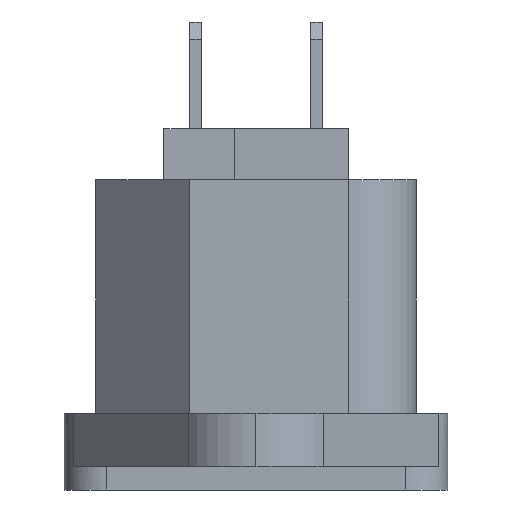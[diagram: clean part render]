
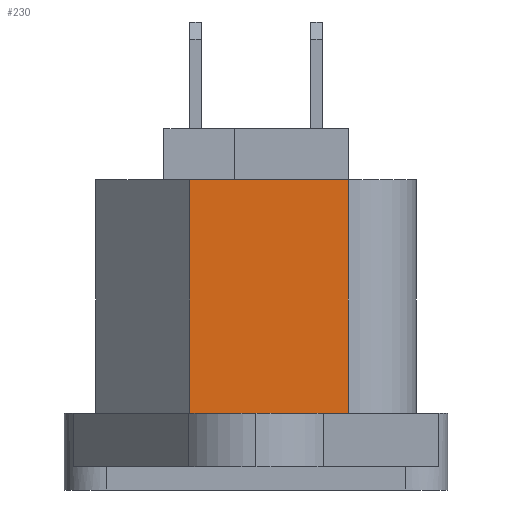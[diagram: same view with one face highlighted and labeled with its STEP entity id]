
A CAD part, left-side view. The second image highlights one B-rep face of the part: STEP entity #230.
In plain terms, the highlighted planar face has unit normal (-1, 0, 0).
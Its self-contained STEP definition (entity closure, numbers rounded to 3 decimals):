
#12 = DIRECTION ( 'NONE',  ( 0., 0., -1. ) ) ;
#230 = ADVANCED_FACE ( 'NONE', ( #1875 ), #2715, .F. ) ;
#377 = LINE ( 'NONE', #2758, #1943 ) ;
#398 = DIRECTION ( 'NONE',  ( 0., -1., 0. ) ) ;
#449 = ORIENTED_EDGE ( 'NONE', *, *, #1484, .F. ) ;
#588 = EDGE_CURVE ( 'NONE', #2787, #1254, #3266, .T. ) ;
#633 = EDGE_CURVE ( 'NONE', #1963, #1254, #2275, .T. ) ;
#728 = CARTESIAN_POINT ( 'NONE',  ( -13.25, 3.9, 3.15 ) ) ;
#897 = ORIENTED_EDGE ( 'NONE', *, *, #3741, .T. ) ;
#906 = CARTESIAN_POINT ( 'NONE',  ( -13.25, -5.4, 3.15 ) ) ;
#1121 = ORIENTED_EDGE ( 'NONE', *, *, #588, .F. ) ;
#1254 = VERTEX_POINT ( 'NONE', #906 ) ;
#1482 = DIRECTION ( 'NONE',  ( 1., 0., 0. ) ) ;
#1484 = EDGE_CURVE ( 'NONE', #3324, #2787, #3225, .T. ) ;
#1672 = DIRECTION ( 'NONE',  ( 0., 0., -1. ) ) ;
#1721 = VECTOR ( 'NONE', #398, 1000. ) ;
#1875 = FACE_OUTER_BOUND ( 'NONE', #2508, .T. ) ;
#1927 = AXIS2_PLACEMENT_3D ( 'NONE', #3376, #1482, #3648 ) ;
#1943 = VECTOR ( 'NONE', #12, 1000. ) ;
#1963 = VERTEX_POINT ( 'NONE', #728 ) ;
#2275 = LINE ( 'NONE', #3756, #1721 ) ;
#2355 = VECTOR ( 'NONE', #1672, 1000. ) ;
#2409 = VECTOR ( 'NONE', #3777, 1000. ) ;
#2508 = EDGE_LOOP ( 'NONE', ( #2731, #1121, #449, #897 ) ) ;
#2715 = PLANE ( 'NONE',  #1927 ) ;
#2731 = ORIENTED_EDGE ( 'NONE', *, *, #633, .T. ) ;
#2748 = CARTESIAN_POINT ( 'NONE',  ( -13.25, 3.9, 16.85 ) ) ;
#2758 = CARTESIAN_POINT ( 'NONE',  ( -13.25, 3.9, 16.85 ) ) ;
#2787 = VERTEX_POINT ( 'NONE', #4020 ) ;
#3225 = LINE ( 'NONE', #3671, #2409 ) ;
#3266 = LINE ( 'NONE', #3292, #2355 ) ;
#3292 = CARTESIAN_POINT ( 'NONE',  ( -13.25, -5.4, 16.85 ) ) ;
#3324 = VERTEX_POINT ( 'NONE', #2748 ) ;
#3376 = CARTESIAN_POINT ( 'NONE',  ( -13.25, -5.4, 16.85 ) ) ;
#3648 = DIRECTION ( 'NONE',  ( 0., 1., 0. ) ) ;
#3671 = CARTESIAN_POINT ( 'NONE',  ( -13.25, -5.4, 16.85 ) ) ;
#3741 = EDGE_CURVE ( 'NONE', #3324, #1963, #377, .T. ) ;
#3756 = CARTESIAN_POINT ( 'NONE',  ( -13.25, -5.4, 3.15 ) ) ;
#3777 = DIRECTION ( 'NONE',  ( 0., -1., 0. ) ) ;
#4020 = CARTESIAN_POINT ( 'NONE',  ( -13.25, -5.4, 16.85 ) ) ;
